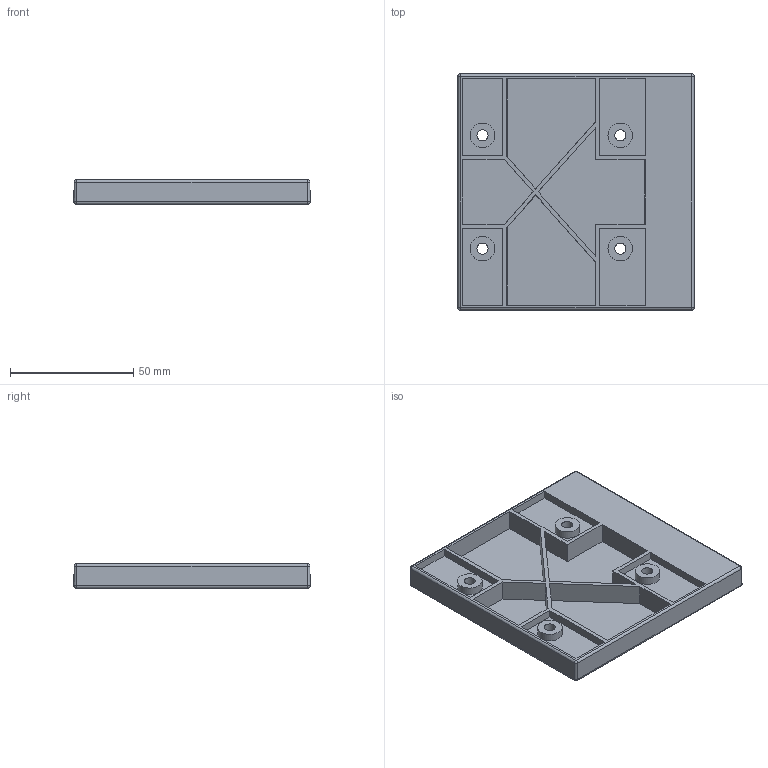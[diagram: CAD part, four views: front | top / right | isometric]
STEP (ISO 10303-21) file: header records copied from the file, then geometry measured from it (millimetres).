
FILE_DESCRIPTION(('Unknown'),'2;1');
FILE_NAME('','Unknown',('Unknown'),('Unknown'),'','Unknown','');
FILE_SCHEMA(('CONFIG_CONTROL_DESIGN'));
Length unit declared in the file: millimetre
Bounding box: 95.98 x 95.98 x 10 mm (x, y, z)
Volume: 27035.5 mm3; surface area: 31933.9 mm2
Topology: 1 solids, 1 shells, 109 faces, 262 edges, 164 vertices
Faces by surface type: plane 81, cylinder 20, sphere 8
Full cylindrical faces by diameter (mm): 4.5 x4, 10 x4
Entity records: 3039 total; most frequent: CARTESIAN_POINT 501, DIRECTION 492, ORIENTED_EDGE 476, EDGE_CURVE 238, LINE 198, VECTOR 198, VERTEX_POINT 156, AXIS2_PLACEMENT_3D 147
